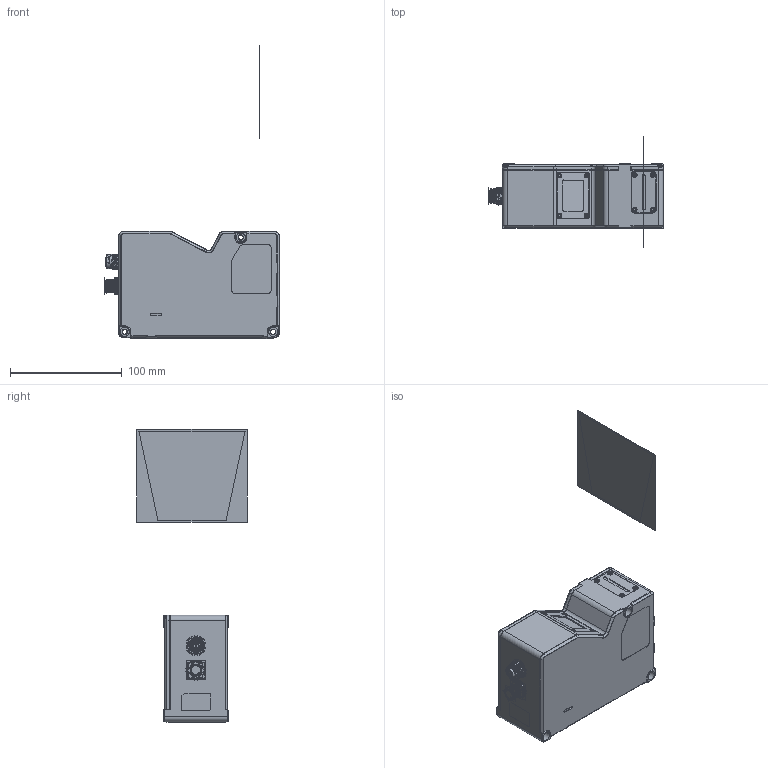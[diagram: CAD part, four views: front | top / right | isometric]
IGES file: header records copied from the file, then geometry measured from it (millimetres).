
Start section:  PTC IGES file: 3120-2120-v2_0-shell_sw0002.igs
Global section: file name: 3120-2120-v2_0-shell_sw0002.igs; native system: Creo Parametric by PTC Inc.; preprocessor: 2020044; author: liudeting; organization: Unknown; date: 20240808.172920; units: millimetre
Bounding box: 157.57 x 98.8 x 262.7 mm (x, y, z)
Surface area: 80305 mm2 (no closed solid volume)
Topology: 0 solids, 0 shells, 961 faces, 8327 edges, 9860 vertices
Faces by surface type: revolution 625, bspline 336
